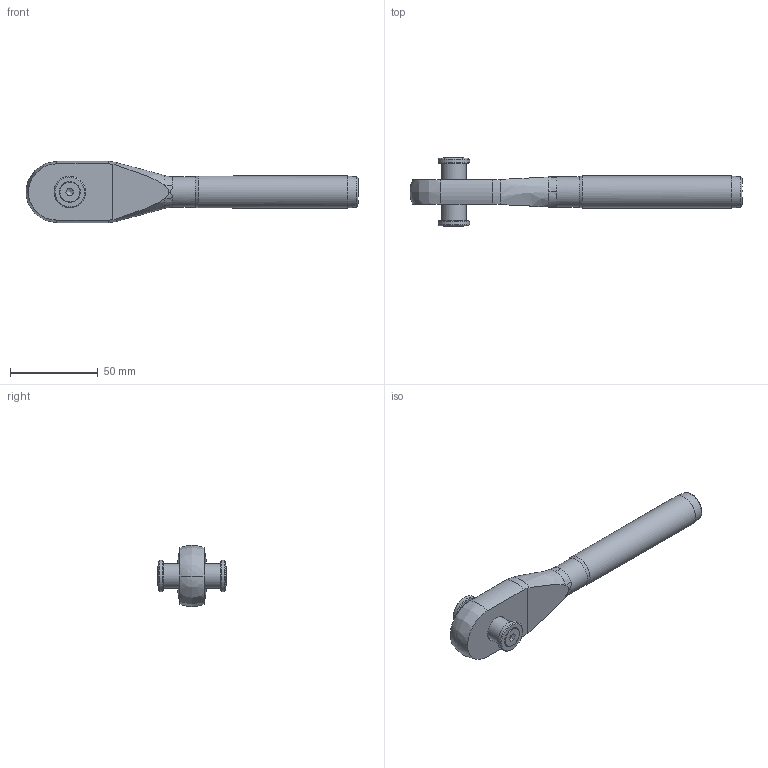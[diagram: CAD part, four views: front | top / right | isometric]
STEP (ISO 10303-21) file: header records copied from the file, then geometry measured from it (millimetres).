
FILE_DESCRIPTION(/* description */ (''),/* implementation_level */ '2;1');
FILE_NAME(/* name */ 'MCC 10_42CrMo4',/* time_stamp */ '2023-05-23T15:40:57+02:00',/* author */ (''),/* organization */ (''),/* preprocessor_version */ 'ST-DEVELOPER v16.5',/* originating_system */ 'Rhino 7.22',/* authorisation */ '');
FILE_SCHEMA (('CONFIG_CONTROL_DESIGN'));
Length unit declared in the file: millimetre
Products named in the file (1): Document
Bounding box: 189.5 x 39.12 x 35 mm (x, y, z)
Volume: 65554.1 mm3; surface area: 17777.9 mm2
Topology: 6 solids, 6 shells, 74 faces, 202 edges, 134 vertices
Faces by surface type: bspline 31, plane 27, cylinder 16
Full cylindrical faces by diameter (mm): 4.917 x2, 6 x2, 6.5 x2, 11.34 x2, 14 x1, 15 x1, 17.4 x1, 18 x2, 18.3 x1
Entity records: 3231 total; most frequent: CARTESIAN_POINT 1980, ORIENTED_EDGE 384, EDGE_CURVE 192, VERTEX_POINT 134, EDGE_LOOP 84, ADVANCED_FACE 74, FACE_OUTER_BOUND 74, B_SPLINE_CURVE_WITH_KNOTS 64
